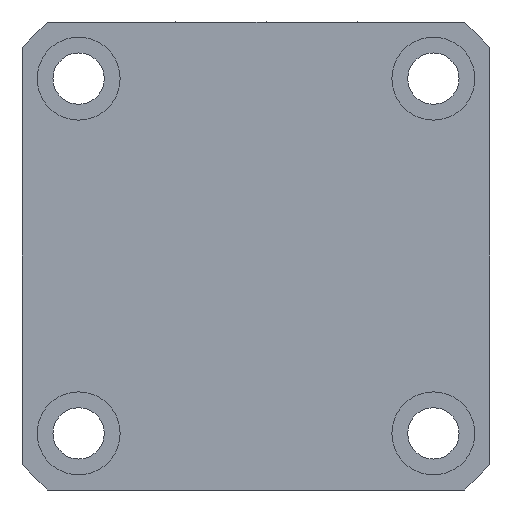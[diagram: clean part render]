
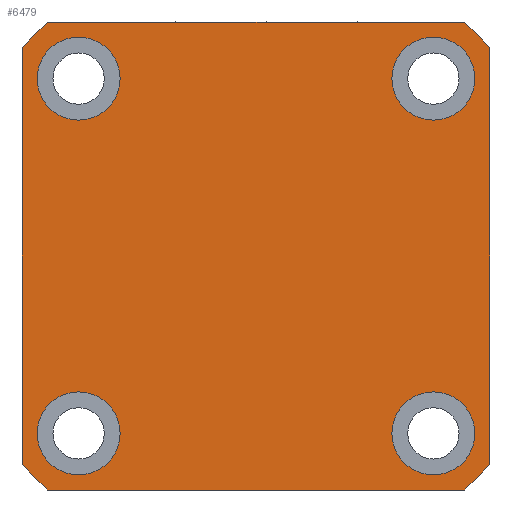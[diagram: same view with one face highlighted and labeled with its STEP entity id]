
A CAD part, left-side view. The second image highlights one B-rep face of the part: STEP entity #6479.
In plain terms, the highlighted planar face has unit normal (-1, 0, 0).
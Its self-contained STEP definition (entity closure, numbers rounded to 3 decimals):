
#2916=LINE('',#19079,#3839);
#2925=LINE('',#22792,#3848);
#2927=LINE('',#22798,#3850);
#2928=LINE('',#22802,#3851);
#3839=VECTOR('',#14351,1.);
#3848=VECTOR('',#14538,1.);
#3850=VECTOR('',#14544,1.);
#3851=VECTOR('',#14547,1.);
#4922=PLANE('',#13861);
#6479=ADVANCED_FACE('',(#7197,#7198,#7199,#7200,#7201),#4922,.F.);
#7025=CIRCLE('',#13768,5.5);
#7027=CIRCLE('',#13771,5.5);
#7029=CIRCLE('',#13774,5.5);
#7031=CIRCLE('',#13777,5.5);
#7076=CIRCLE('',#13857,41.5);
#7077=CIRCLE('',#13858,41.5);
#7078=CIRCLE('',#13859,41.5);
#7079=CIRCLE('',#13860,41.5);
#7197=FACE_BOUND('',#7432,.T.);
#7198=FACE_BOUND('',#7433,.T.);
#7199=FACE_BOUND('',#7434,.T.);
#7200=FACE_BOUND('',#7435,.T.);
#7201=FACE_BOUND('',#7436,.T.);
#7432=EDGE_LOOP('',(#8335,#8336,#8337,#8338,#8339,#8340,#8341,#8342));
#7433=EDGE_LOOP('',(#8343));
#7434=EDGE_LOOP('',(#8344));
#7435=EDGE_LOOP('',(#8345));
#7436=EDGE_LOOP('',(#8346));
#8335=ORIENTED_EDGE('',*,*,#12369,.F.);
#8336=ORIENTED_EDGE('',*,*,#12370,.F.);
#8337=ORIENTED_EDGE('',*,*,#12371,.F.);
#8338=ORIENTED_EDGE('',*,*,#12372,.F.);
#8339=ORIENTED_EDGE('',*,*,#12373,.F.);
#8340=ORIENTED_EDGE('',*,*,#12232,.F.);
#8341=ORIENTED_EDGE('',*,*,#12374,.F.);
#8342=ORIENTED_EDGE('',*,*,#12367,.F.);
#8343=ORIENTED_EDGE('',*,*,#12234,.F.);
#8344=ORIENTED_EDGE('',*,*,#12236,.F.);
#8345=ORIENTED_EDGE('',*,*,#12238,.F.);
#8346=ORIENTED_EDGE('',*,*,#12240,.F.);
#11161=VERTEX_POINT('',#19078);
#11162=VERTEX_POINT('',#19080);
#11163=VERTEX_POINT('',#19084);
#11165=VERTEX_POINT('',#19089);
#11167=VERTEX_POINT('',#19094);
#11169=VERTEX_POINT('',#19099);
#11266=VERTEX_POINT('',#22791);
#11267=VERTEX_POINT('',#22793);
#11268=VERTEX_POINT('',#22797);
#11269=VERTEX_POINT('',#22799);
#11270=VERTEX_POINT('',#22801);
#11271=VERTEX_POINT('',#22803);
#12232=EDGE_CURVE('',#11161,#11162,#2916,.T.);
#12234=EDGE_CURVE('',#11163,#11163,#7025,.T.);
#12236=EDGE_CURVE('',#11165,#11165,#7027,.T.);
#12238=EDGE_CURVE('',#11167,#11167,#7029,.T.);
#12240=EDGE_CURVE('',#11169,#11169,#7031,.T.);
#12367=EDGE_CURVE('',#11266,#11267,#2925,.T.);
#12369=EDGE_CURVE('',#11268,#11266,#7076,.T.);
#12370=EDGE_CURVE('',#11269,#11268,#2927,.T.);
#12371=EDGE_CURVE('',#11270,#11269,#7077,.T.);
#12372=EDGE_CURVE('',#11271,#11270,#2928,.T.);
#12373=EDGE_CURVE('',#11162,#11271,#7078,.T.);
#12374=EDGE_CURVE('',#11267,#11161,#7079,.T.);
#13768=AXIS2_PLACEMENT_3D('',#19083,#14355,#14356);
#13771=AXIS2_PLACEMENT_3D('',#19088,#14361,#14362);
#13774=AXIS2_PLACEMENT_3D('',#19093,#14367,#14368);
#13777=AXIS2_PLACEMENT_3D('',#19098,#14373,#14374);
#13857=AXIS2_PLACEMENT_3D('',#22796,#14542,#14543);
#13858=AXIS2_PLACEMENT_3D('',#22800,#14545,#14546);
#13859=AXIS2_PLACEMENT_3D('',#22804,#14548,#14549);
#13860=AXIS2_PLACEMENT_3D('',#22805,#14550,#14551);
#13861=AXIS2_PLACEMENT_3D('',#22806,#14552,#14553);
#14351=DIRECTION('',(0.,1.,0.));
#14355=DIRECTION('',(-1.,0.,0.));
#14356=DIRECTION('',(0.,0.,1.));
#14361=DIRECTION('',(-1.,0.,0.));
#14362=DIRECTION('',(0.,0.,1.));
#14367=DIRECTION('',(-1.,0.,0.));
#14368=DIRECTION('',(0.,0.,1.));
#14373=DIRECTION('',(-1.,0.,0.));
#14374=DIRECTION('',(0.,0.,1.));
#14538=DIRECTION('',(0.,0.,-1.));
#14542=DIRECTION('',(1.,0.,0.));
#14543=DIRECTION('',(0.,0.,-1.));
#14544=DIRECTION('',(0.,-1.,0.));
#14545=DIRECTION('',(1.,0.,0.));
#14546=DIRECTION('',(0.,0.,-1.));
#14547=DIRECTION('',(0.,0.,1.));
#14548=DIRECTION('',(1.,0.,0.));
#14549=DIRECTION('',(0.,0.,-1.));
#14550=DIRECTION('',(1.,0.,0.));
#14551=DIRECTION('',(0.,0.,-1.));
#14552=DIRECTION('',(1.,0.,0.));
#14553=DIRECTION('',(0.,0.,1.));
#19078=CARTESIAN_POINT('',(0.,3.409,-62.));
#19079=CARTESIAN_POINT('',(0.,31.,-62.));
#19080=CARTESIAN_POINT('',(0.,58.591,-62.));
#19083=CARTESIAN_POINT('',(0.,7.5,-54.5));
#19084=CARTESIAN_POINT('',(0.,7.5,-49.));
#19088=CARTESIAN_POINT('',(0.,7.5,-7.5));
#19089=CARTESIAN_POINT('',(0.,7.5,-2.));
#19093=CARTESIAN_POINT('',(0.,54.5,-7.5));
#19094=CARTESIAN_POINT('',(0.,54.5,-2.));
#19098=CARTESIAN_POINT('',(0.,54.5,-54.5));
#19099=CARTESIAN_POINT('',(0.,54.5,-49.));
#22791=CARTESIAN_POINT('',(0.,0.,-3.409));
#22792=CARTESIAN_POINT('',(0.,0.,-6.));
#22793=CARTESIAN_POINT('',(0.,0.,-58.591));
#22796=CARTESIAN_POINT('',(0.,31.,-31.));
#22797=CARTESIAN_POINT('',(0.,3.409,0.));
#22798=CARTESIAN_POINT('',(0.,31.,0.));
#22799=CARTESIAN_POINT('',(0.,58.591,0.));
#22800=CARTESIAN_POINT('',(0.,31.,-31.));
#22801=CARTESIAN_POINT('',(0.,62.,-3.409));
#22802=CARTESIAN_POINT('',(0.,62.,-31.));
#22803=CARTESIAN_POINT('',(0.,62.,-58.591));
#22804=CARTESIAN_POINT('',(0.,31.,-31.));
#22805=CARTESIAN_POINT('',(0.,31.,-31.));
#22806=CARTESIAN_POINT('',(0.,31.,-31.));
